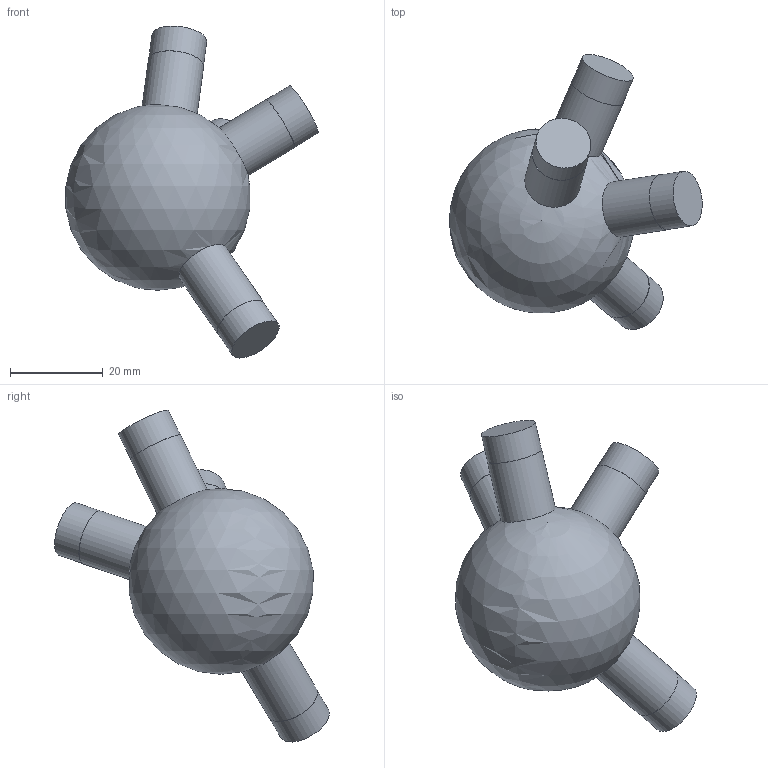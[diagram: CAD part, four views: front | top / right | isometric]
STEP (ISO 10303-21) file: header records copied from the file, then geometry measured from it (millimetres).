
FILE_DESCRIPTION(('Open CASCADE Model'),'2;1');
FILE_NAME('Open CASCADE Shape Model','2026-10-21T12:47:57',('Author'),( 'Open CASCADE'),'Open CASCADE STEP processor 7.9','Open CASCADE 7.9' ,'Unknown');
FILE_SCHEMA(('AUTOMOTIVE_DESIGN { 1 0 10303 214 1 1 1 1 }'));
Length unit declared in the file: millimetre
Products named in the file (1): Open CASCADE STEP translator 7.9 116
Bounding box: 54.39 x 59.17 x 71.51 mm (x, y, z)
Volume: 42071.6 mm3; surface area: 7947.1 mm2
Topology: 1 solids, 1 shells, 17 faces, 29 edges, 20 vertices
Faces by surface type: cylinder 8, plane 8, sphere 1
Full cylindrical faces by diameter (mm): 11.9 x4, 12 x4
Entity records: 1051 total; most frequent: CARTESIAN_POINT 397, DIRECTION 134, ORIENTED_EDGE 56, PCURVE 56, DEFINITIONAL_REPRESENTATION 56, LINE 46, VECTOR 46, AXIS2_PLACEMENT_3D 38
